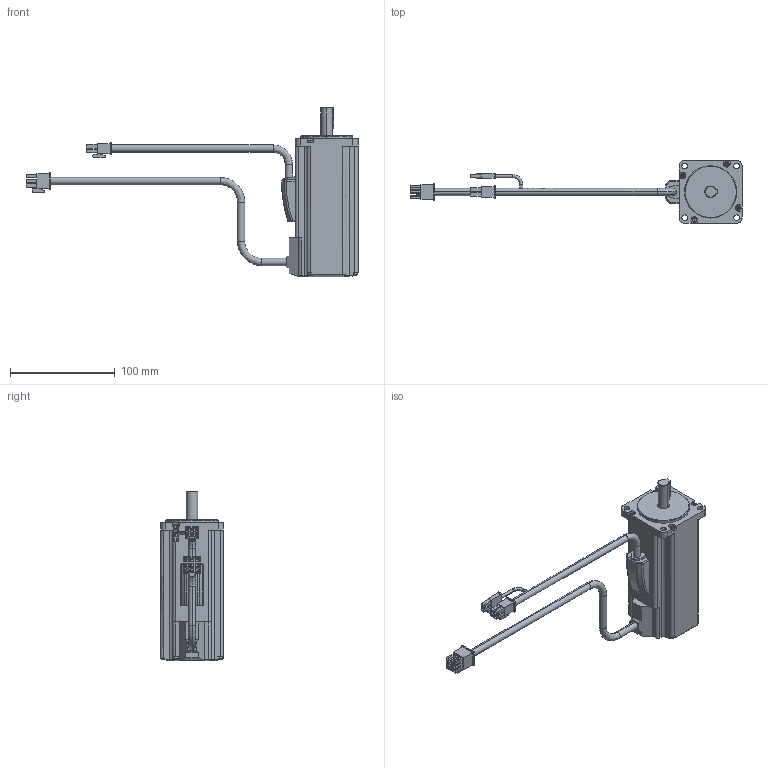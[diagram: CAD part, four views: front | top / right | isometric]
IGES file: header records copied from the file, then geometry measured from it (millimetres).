
Start section:  PTC IGES file: RSMZ-A2BA3xT.igs
Global section: file name: RSMZ-A2BA3xT.igs; native system: Pro/ENGINEER by Parametric Technology Corporation; preprocessor: 2004440; author: Administrator; organization: Unknown; date: 070904.190636; units: millimetre
Bounding box: 317.7 x 60 x 162 mm (x, y, z)
Volume: 450084.3 mm3; surface area: 57624.8 mm2
Topology: 1 solids, 1 shells, 504 faces, 1271 edges, 825 vertices
Faces by surface type: bspline 364, revolution 140
